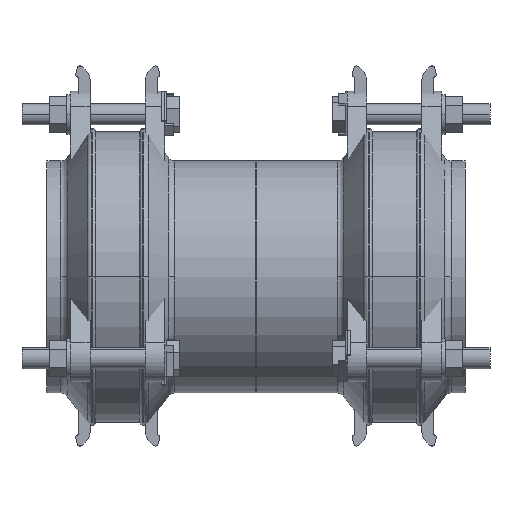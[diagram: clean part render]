
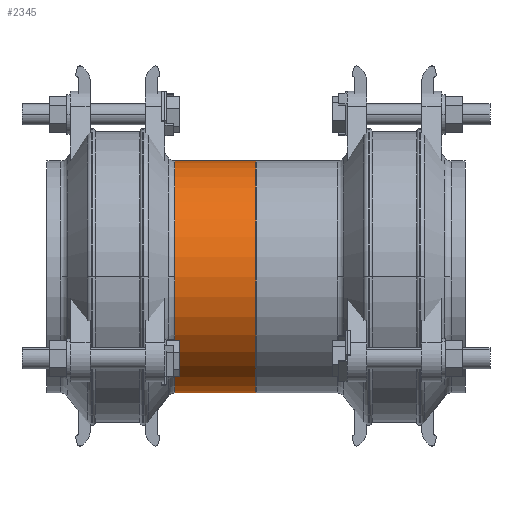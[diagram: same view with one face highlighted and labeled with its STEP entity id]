
A CAD part, front view. The second image highlights one B-rep face of the part: STEP entity #2345.
In plain terms, the highlighted cylindrical face has radius 88.5 mm (diameter 177 mm), a partial arc.
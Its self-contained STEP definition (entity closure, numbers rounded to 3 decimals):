
#2345=ADVANCED_FACE('',(#4267),#4268,.T.);
#4267=FACE_OUTER_BOUND('',#6263,.T.);
#4268=CYLINDRICAL_SURFACE('',#6264,88.5);
#6263=EDGE_LOOP('',(#10681,#10682,#10683,#10684,#10685));
#6264=AXIS2_PLACEMENT_3D('',#10686,#10687,#10688);
#10681=ORIENTED_EDGE('',*,*,#11952,.F.);
#10682=ORIENTED_EDGE('',*,*,#12428,.T.);
#10683=ORIENTED_EDGE('',*,*,#12504,.T.);
#10684=ORIENTED_EDGE('',*,*,#11953,.F.);
#10685=ORIENTED_EDGE('',*,*,#11078,.F.);
#10686=CARTESIAN_POINT('',(-7.559,0.,0.0));
#10687=DIRECTION('',(1.0,0.,0.));
#10688=DIRECTION('',(0.,0.,1.0));
#11078=EDGE_CURVE('',#13025,#13026,#13027,.T.);
#11952=EDGE_CURVE('',#14375,#13025,#14376,.T.);
#11953=EDGE_CURVE('',#13026,#14377,#14378,.T.);
#12428=EDGE_CURVE('',#14375,#14971,#14973,.T.);
#12504=EDGE_CURVE('',#14971,#14377,#15055,.T.);
#13025=VERTEX_POINT('',#15692);
#13026=VERTEX_POINT('',#15693);
#13027=CIRCLE('',#15694,88.5);
#14375=VERTEX_POINT('',#17484);
#14376=LINE('',#17485,#17486);
#14377=VERTEX_POINT('',#17487);
#14378=LINE('',#17488,#17489);
#14971=VERTEX_POINT('',#18298);
#14973=CIRCLE('',#18300,88.5);
#15055=CIRCLE('',#18401,88.5);
#15692=CARTESIAN_POINT('',(23.504,0.,88.5));
#15693=CARTESIAN_POINT('',(23.504,0.,-88.5));
#15694=AXIS2_PLACEMENT_3D('',#18855,#18856,#18857);
#17484=CARTESIAN_POINT('',(-38.621,0.,88.5));
#17485=CARTESIAN_POINT('',(-7.559,0.,88.5));
#17486=VECTOR('',#19924,1.0);
#17487=CARTESIAN_POINT('',(-38.621,0.,-88.5));
#17488=CARTESIAN_POINT('',(-7.559,0.,-88.5));
#17489=VECTOR('',#19925,1.0);
#18298=CARTESIAN_POINT('',(-38.621,-88.5,0.));
#18300=AXIS2_PLACEMENT_3D('',#20358,#20359,#20360);
#18401=AXIS2_PLACEMENT_3D('',#20416,#20417,#20418);
#18855=CARTESIAN_POINT('',(23.504,0.,0.));
#18856=DIRECTION('',(1.0,0.,0.));
#18857=DIRECTION('',(0.,0.,1.0));
#19924=DIRECTION('',(1.0,0.,0.));
#19925=DIRECTION('',(-1.0,0.,0.));
#20358=CARTESIAN_POINT('',(-38.621,0.,0.0));
#20359=DIRECTION('',(1.0,0.,0.));
#20360=DIRECTION('',(0.,0.,1.0));
#20416=CARTESIAN_POINT('',(-38.621,0.,0.0));
#20417=DIRECTION('',(1.0,0.,0.));
#20418=DIRECTION('',(0.,0.,1.0));
